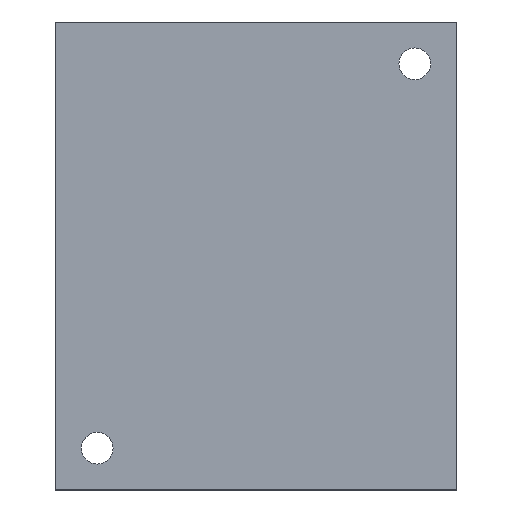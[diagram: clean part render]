
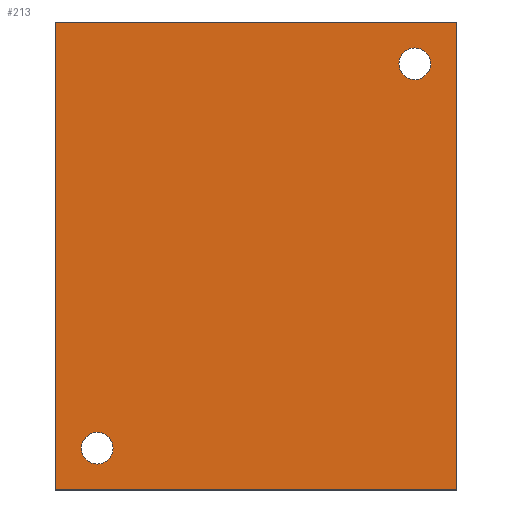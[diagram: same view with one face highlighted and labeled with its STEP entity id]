
A CAD part, top view. The second image highlights one B-rep face of the part: STEP entity #213.
In plain terms, the highlighted planar face has unit normal (0, 0, 1).
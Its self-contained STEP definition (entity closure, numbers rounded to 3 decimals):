
#24 = VERTEX_POINT('',#25);
#25 = CARTESIAN_POINT('',(4.,6.,5.2));
#32 = PLANE('',#33);
#33 = AXIS2_PLACEMENT_3D('',#34,#35,#36);
#34 = CARTESIAN_POINT('',(4.,6.,3.6));
#35 = DIRECTION('',(1.,0.,-0.));
#36 = DIRECTION('',(0.,0.,1.));
#44 = PLANE('',#45);
#45 = AXIS2_PLACEMENT_3D('',#46,#47,#48);
#46 = CARTESIAN_POINT('',(4.,6.,3.6));
#47 = DIRECTION('',(-0.,1.,0.));
#48 = DIRECTION('',(0.,0.,1.));
#85 = VERTEX_POINT('',#86);
#86 = CARTESIAN_POINT('',(4.,34.,5.2));
#100 = PLANE('',#101);
#101 = AXIS2_PLACEMENT_3D('',#102,#103,#104);
#102 = CARTESIAN_POINT('',(4.,34.,3.6));
#103 = DIRECTION('',(-0.,1.,0.));
#104 = DIRECTION('',(0.,0.,1.));
#112 = EDGE_CURVE('',#24,#85,#113,.T.);
#113 = SURFACE_CURVE('',#114,(#118,#125),.PCURVE_S1.);
#114 = LINE('',#115,#116);
#115 = CARTESIAN_POINT('',(4.,6.,5.2));
#116 = VECTOR('',#117,1.);
#117 = DIRECTION('',(-0.,1.,0.));
#118 = PCURVE('',#32,#119);
#119 = DEFINITIONAL_REPRESENTATION('',(#120),#124);
#120 = LINE('',#121,#122);
#121 = CARTESIAN_POINT('',(1.6,0.));
#122 = VECTOR('',#123,1.);
#123 = DIRECTION('',(0.,-1.));
#124 = ( GEOMETRIC_REPRESENTATION_CONTEXT(2) 
PARAMETRIC_REPRESENTATION_CONTEXT() REPRESENTATION_CONTEXT('2D SPACE',''
  ) );
#125 = PCURVE('',#126,#131);
#126 = PLANE('',#127);
#127 = AXIS2_PLACEMENT_3D('',#128,#129,#130);
#128 = CARTESIAN_POINT('',(4.,6.,5.2));
#129 = DIRECTION('',(0.,0.,1.));
#130 = DIRECTION('',(1.,0.,-0.));
#131 = DEFINITIONAL_REPRESENTATION('',(#132),#136);
#132 = LINE('',#133,#134);
#133 = CARTESIAN_POINT('',(0.,0.));
#134 = VECTOR('',#135,1.);
#135 = DIRECTION('',(0.,1.));
#136 = ( GEOMETRIC_REPRESENTATION_CONTEXT(2) 
PARAMETRIC_REPRESENTATION_CONTEXT() REPRESENTATION_CONTEXT('2D SPACE',''
  ) );
#165 = EDGE_CURVE('',#24,#166,#168,.T.);
#166 = VERTEX_POINT('',#167);
#167 = CARTESIAN_POINT('',(28.,6.,5.2));
#168 = SURFACE_CURVE('',#169,(#173,#180),.PCURVE_S1.);
#169 = LINE('',#170,#171);
#170 = CARTESIAN_POINT('',(4.,6.,5.2));
#171 = VECTOR('',#172,1.);
#172 = DIRECTION('',(1.,0.,-0.));
#173 = PCURVE('',#44,#174);
#174 = DEFINITIONAL_REPRESENTATION('',(#175),#179);
#175 = LINE('',#176,#177);
#176 = CARTESIAN_POINT('',(1.6,0.));
#177 = VECTOR('',#178,1.);
#178 = DIRECTION('',(0.,1.));
#179 = ( GEOMETRIC_REPRESENTATION_CONTEXT(2) 
PARAMETRIC_REPRESENTATION_CONTEXT() REPRESENTATION_CONTEXT('2D SPACE',''
  ) );
#180 = PCURVE('',#126,#181);
#181 = DEFINITIONAL_REPRESENTATION('',(#182),#186);
#182 = LINE('',#183,#184);
#183 = CARTESIAN_POINT('',(0.,0.));
#184 = VECTOR('',#185,1.);
#185 = DIRECTION('',(1.,0.));
#186 = ( GEOMETRIC_REPRESENTATION_CONTEXT(2) 
PARAMETRIC_REPRESENTATION_CONTEXT() REPRESENTATION_CONTEXT('2D SPACE',''
  ) );
#202 = PLANE('',#203);
#203 = AXIS2_PLACEMENT_3D('',#204,#205,#206);
#204 = CARTESIAN_POINT('',(28.,6.,3.6));
#205 = DIRECTION('',(1.,0.,-0.));
#206 = DIRECTION('',(0.,0.,1.));
#213 = ADVANCED_FACE('',(#214,#262,#293),#126,.T.);
#214 = FACE_BOUND('',#215,.T.);
#215 = EDGE_LOOP('',(#216,#217,#218,#241));
#216 = ORIENTED_EDGE('',*,*,#112,.F.);
#217 = ORIENTED_EDGE('',*,*,#165,.T.);
#218 = ORIENTED_EDGE('',*,*,#219,.T.);
#219 = EDGE_CURVE('',#166,#220,#222,.T.);
#220 = VERTEX_POINT('',#221);
#221 = CARTESIAN_POINT('',(28.,34.,5.2));
#222 = SURFACE_CURVE('',#223,(#227,#234),.PCURVE_S1.);
#223 = LINE('',#224,#225);
#224 = CARTESIAN_POINT('',(28.,6.,5.2));
#225 = VECTOR('',#226,1.);
#226 = DIRECTION('',(-0.,1.,0.));
#227 = PCURVE('',#126,#228);
#228 = DEFINITIONAL_REPRESENTATION('',(#229),#233);
#229 = LINE('',#230,#231);
#230 = CARTESIAN_POINT('',(24.,0.));
#231 = VECTOR('',#232,1.);
#232 = DIRECTION('',(0.,1.));
#233 = ( GEOMETRIC_REPRESENTATION_CONTEXT(2) 
PARAMETRIC_REPRESENTATION_CONTEXT() REPRESENTATION_CONTEXT('2D SPACE',''
  ) );
#234 = PCURVE('',#202,#235);
#235 = DEFINITIONAL_REPRESENTATION('',(#236),#240);
#236 = LINE('',#237,#238);
#237 = CARTESIAN_POINT('',(1.6,0.));
#238 = VECTOR('',#239,1.);
#239 = DIRECTION('',(0.,-1.));
#240 = ( GEOMETRIC_REPRESENTATION_CONTEXT(2) 
PARAMETRIC_REPRESENTATION_CONTEXT() REPRESENTATION_CONTEXT('2D SPACE',''
  ) );
#241 = ORIENTED_EDGE('',*,*,#242,.F.);
#242 = EDGE_CURVE('',#85,#220,#243,.T.);
#243 = SURFACE_CURVE('',#244,(#248,#255),.PCURVE_S1.);
#244 = LINE('',#245,#246);
#245 = CARTESIAN_POINT('',(4.,34.,5.2));
#246 = VECTOR('',#247,1.);
#247 = DIRECTION('',(1.,0.,-0.));
#248 = PCURVE('',#126,#249);
#249 = DEFINITIONAL_REPRESENTATION('',(#250),#254);
#250 = LINE('',#251,#252);
#251 = CARTESIAN_POINT('',(0.,28.));
#252 = VECTOR('',#253,1.);
#253 = DIRECTION('',(1.,0.));
#254 = ( GEOMETRIC_REPRESENTATION_CONTEXT(2) 
PARAMETRIC_REPRESENTATION_CONTEXT() REPRESENTATION_CONTEXT('2D SPACE',''
  ) );
#255 = PCURVE('',#100,#256);
#256 = DEFINITIONAL_REPRESENTATION('',(#257),#261);
#257 = LINE('',#258,#259);
#258 = CARTESIAN_POINT('',(1.6,0.));
#259 = VECTOR('',#260,1.);
#260 = DIRECTION('',(0.,1.));
#261 = ( GEOMETRIC_REPRESENTATION_CONTEXT(2) 
PARAMETRIC_REPRESENTATION_CONTEXT() REPRESENTATION_CONTEXT('2D SPACE',''
  ) );
#262 = FACE_BOUND('',#263,.T.);
#263 = EDGE_LOOP('',(#264));
#264 = ORIENTED_EDGE('',*,*,#265,.F.);
#265 = EDGE_CURVE('',#266,#266,#268,.T.);
#266 = VERTEX_POINT('',#267);
#267 = CARTESIAN_POINT('',(7.45,8.5,5.2));
#268 = SURFACE_CURVE('',#269,(#274,#281),.PCURVE_S1.);
#269 = CIRCLE('',#270,0.95);
#270 = AXIS2_PLACEMENT_3D('',#271,#272,#273);
#271 = CARTESIAN_POINT('',(6.5,8.5,5.2));
#272 = DIRECTION('',(0.,0.,1.));
#273 = DIRECTION('',(1.,0.,-0.));
#274 = PCURVE('',#126,#275);
#275 = DEFINITIONAL_REPRESENTATION('',(#276),#280);
#276 = CIRCLE('',#277,0.95);
#277 = AXIS2_PLACEMENT_2D('',#278,#279);
#278 = CARTESIAN_POINT('',(2.5,2.5));
#279 = DIRECTION('',(1.,0.));
#280 = ( GEOMETRIC_REPRESENTATION_CONTEXT(2) 
PARAMETRIC_REPRESENTATION_CONTEXT() REPRESENTATION_CONTEXT('2D SPACE',''
  ) );
#281 = PCURVE('',#282,#287);
#282 = CYLINDRICAL_SURFACE('',#283,0.95);
#283 = AXIS2_PLACEMENT_3D('',#284,#285,#286);
#284 = CARTESIAN_POINT('',(6.5,8.5,2.6));
#285 = DIRECTION('',(0.,0.,1.));
#286 = DIRECTION('',(1.,0.,-0.));
#287 = DEFINITIONAL_REPRESENTATION('',(#288),#292);
#288 = LINE('',#289,#290);
#289 = CARTESIAN_POINT('',(0.,2.6));
#290 = VECTOR('',#291,1.);
#291 = DIRECTION('',(1.,0.));
#292 = ( GEOMETRIC_REPRESENTATION_CONTEXT(2) 
PARAMETRIC_REPRESENTATION_CONTEXT() REPRESENTATION_CONTEXT('2D SPACE',''
  ) );
#293 = FACE_BOUND('',#294,.T.);
#294 = EDGE_LOOP('',(#295));
#295 = ORIENTED_EDGE('',*,*,#296,.F.);
#296 = EDGE_CURVE('',#297,#297,#299,.T.);
#297 = VERTEX_POINT('',#298);
#298 = CARTESIAN_POINT('',(26.45,31.5,5.2));
#299 = SURFACE_CURVE('',#300,(#305,#312),.PCURVE_S1.);
#300 = CIRCLE('',#301,0.95);
#301 = AXIS2_PLACEMENT_3D('',#302,#303,#304);
#302 = CARTESIAN_POINT('',(25.5,31.5,5.2));
#303 = DIRECTION('',(0.,0.,1.));
#304 = DIRECTION('',(1.,0.,-0.));
#305 = PCURVE('',#126,#306);
#306 = DEFINITIONAL_REPRESENTATION('',(#307),#311);
#307 = CIRCLE('',#308,0.95);
#308 = AXIS2_PLACEMENT_2D('',#309,#310);
#309 = CARTESIAN_POINT('',(21.5,25.5));
#310 = DIRECTION('',(1.,0.));
#311 = ( GEOMETRIC_REPRESENTATION_CONTEXT(2) 
PARAMETRIC_REPRESENTATION_CONTEXT() REPRESENTATION_CONTEXT('2D SPACE',''
  ) );
#312 = PCURVE('',#313,#318);
#313 = CYLINDRICAL_SURFACE('',#314,0.95);
#314 = AXIS2_PLACEMENT_3D('',#315,#316,#317);
#315 = CARTESIAN_POINT('',(25.5,31.5,2.6));
#316 = DIRECTION('',(0.,0.,1.));
#317 = DIRECTION('',(1.,0.,-0.));
#318 = DEFINITIONAL_REPRESENTATION('',(#319),#323);
#319 = LINE('',#320,#321);
#320 = CARTESIAN_POINT('',(0.,2.6));
#321 = VECTOR('',#322,1.);
#322 = DIRECTION('',(1.,0.));
#323 = ( GEOMETRIC_REPRESENTATION_CONTEXT(2) 
PARAMETRIC_REPRESENTATION_CONTEXT() REPRESENTATION_CONTEXT('2D SPACE',''
  ) );
